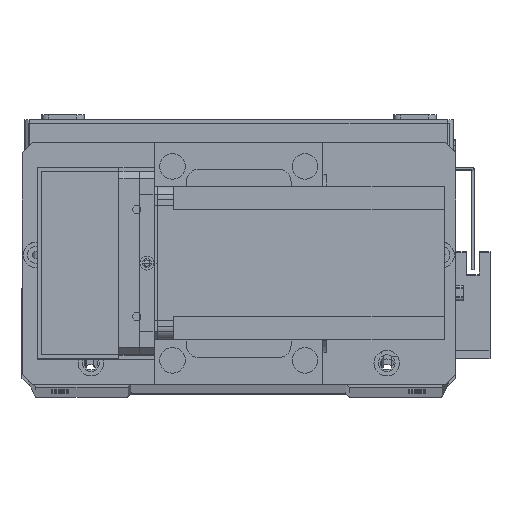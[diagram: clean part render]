
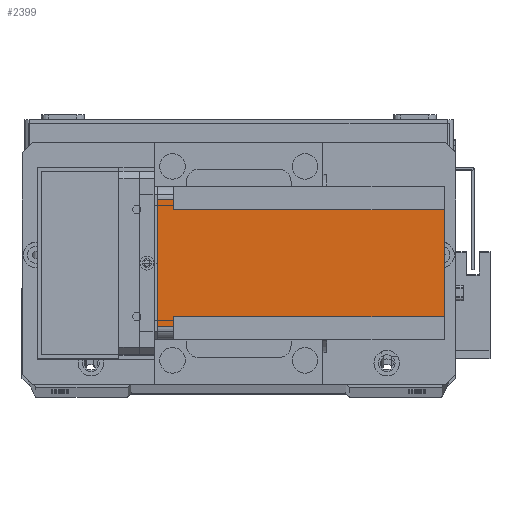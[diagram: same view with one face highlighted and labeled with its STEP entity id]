
A CAD part, top view. The second image highlights one B-rep face of the part: STEP entity #2399.
In plain terms, the highlighted planar face has unit normal (0, 0, 1) as drawn and (-1, 0, 0) by its records, which use the part's own axes.
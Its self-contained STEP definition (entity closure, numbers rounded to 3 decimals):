
#647 = EDGE_CURVE ( 'NONE', #8628, #4630, #11522, .T. ) ;
#913 = CARTESIAN_POINT ( 'NONE',  ( 0., 0., -6.5 ) ) ;
#1085 = ORIENTED_EDGE ( 'NONE', *, *, #647, .T. ) ;
#1522 = VECTOR ( 'NONE', #14975, 1000. ) ;
#1585 = EDGE_CURVE ( 'NONE', #9055, #11306, #19076, .T. ) ;
#1689 = VERTEX_POINT ( 'NONE', #11699 ) ;
#1870 = VECTOR ( 'NONE', #12699, 1000. ) ;
#2399 = ADVANCED_FACE ( 'NONE', ( #21428 ), #14424, .T. ) ;
#2958 = CARTESIAN_POINT ( 'NONE',  ( 0., 9., -112.5 ) ) ;
#3849 = CARTESIAN_POINT ( 'NONE',  ( 0., 9., -6.5 ) ) ;
#3943 = LINE ( 'NONE', #15083, #1522 ) ;
#4092 = VERTEX_POINT ( 'NONE', #27225 ) ;
#4630 = VERTEX_POINT ( 'NONE', #18871 ) ;
#6091 = ORIENTED_EDGE ( 'NONE', *, *, #32957, .F. ) ;
#6653 = VECTOR ( 'NONE', #14276, 1000. ) ;
#8628 = VERTEX_POINT ( 'NONE', #18282 ) ;
#8891 = VECTOR ( 'NONE', #27003, 1000. ) ;
#9055 = VERTEX_POINT ( 'NONE', #9745 ) ;
#9274 = CARTESIAN_POINT ( 'NONE',  ( 0., 55., -112.5 ) ) ;
#9745 = CARTESIAN_POINT ( 'NONE',  ( 0., 5., -6.5 ) ) ;
#10630 = DIRECTION ( 'NONE',  ( 0., 1., 0. ) ) ;
#11306 = VERTEX_POINT ( 'NONE', #3849 ) ;
#11522 = LINE ( 'NONE', #32069, #31995 ) ;
#11699 = CARTESIAN_POINT ( 'NONE',  ( 0., 55., -6.5 ) ) ;
#12141 = LINE ( 'NONE', #2958, #24193 ) ;
#12244 = VECTOR ( 'NONE', #13796, 1000. ) ;
#12593 = EDGE_CURVE ( 'NONE', #14582, #1689, #13455, .T. ) ;
#12699 = DIRECTION ( 'NONE',  ( 0., 0., 1. ) ) ;
#13455 = LINE ( 'NONE', #9274, #6653 ) ;
#13796 = DIRECTION ( 'NONE',  ( 0., 1., 0. ) ) ;
#14276 = DIRECTION ( 'NONE',  ( 0., 0., -1. ) ) ;
#14424 = PLANE ( 'NONE',  #21000 ) ;
#14437 = CARTESIAN_POINT ( 'NONE',  ( 0., 5., 0. ) ) ;
#14533 = DIRECTION ( 'NONE',  ( 0., -1., 0. ) ) ;
#14582 = VERTEX_POINT ( 'NONE', #28749 ) ;
#14842 = ORIENTED_EDGE ( 'NONE', *, *, #12593, .T. ) ;
#14975 = DIRECTION ( 'NONE',  ( 0., -1., 0. ) ) ;
#15083 = CARTESIAN_POINT ( 'NONE',  ( 0., 0., 0. ) ) ;
#15407 = EDGE_CURVE ( 'NONE', #8628, #4092, #30153, .T. ) ;
#15479 = LINE ( 'NONE', #33265, #1870 ) ;
#18282 = CARTESIAN_POINT ( 'NONE',  ( 0., 51., -112.5 ) ) ;
#18309 = DIRECTION ( 'NONE',  ( 0., 0., -1. ) ) ;
#18871 = CARTESIAN_POINT ( 'NONE',  ( 0., 9., -112.5 ) ) ;
#19076 = LINE ( 'NONE', #913, #12244 ) ;
#19609 = VERTEX_POINT ( 'NONE', #14437 ) ;
#19912 = EDGE_CURVE ( 'NONE', #4092, #1689, #21704, .T. ) ;
#20842 = ORIENTED_EDGE ( 'NONE', *, *, #25701, .T. ) ;
#20949 = CARTESIAN_POINT ( 'NONE',  ( 0., 60., -6.5 ) ) ;
#21000 = AXIS2_PLACEMENT_3D ( 'NONE', #22185, #29930, #14533 ) ;
#21428 = FACE_OUTER_BOUND ( 'NONE', #32804, .T. ) ;
#21704 = LINE ( 'NONE', #20949, #27750 ) ;
#22185 = CARTESIAN_POINT ( 'NONE',  ( 0., 0., -112.5 ) ) ;
#24193 = VECTOR ( 'NONE', #18309, 1000. ) ;
#24421 = CARTESIAN_POINT ( 'NONE',  ( 0., 51., -112.5 ) ) ;
#24921 = EDGE_CURVE ( 'NONE', #14582, #19609, #3943, .T. ) ;
#25595 = ORIENTED_EDGE ( 'NONE', *, *, #19912, .F. ) ;
#25701 = EDGE_CURVE ( 'NONE', #9055, #19609, #15479, .T. ) ;
#26561 = ORIENTED_EDGE ( 'NONE', *, *, #1585, .F. ) ;
#27003 = DIRECTION ( 'NONE',  ( 0., 0., 1. ) ) ;
#27225 = CARTESIAN_POINT ( 'NONE',  ( 0., 51., -6.5 ) ) ;
#27750 = VECTOR ( 'NONE', #10630, 1000. ) ;
#28749 = CARTESIAN_POINT ( 'NONE',  ( 0., 55., 0. ) ) ;
#29386 = DIRECTION ( 'NONE',  ( 0., -1., 0. ) ) ;
#29492 = ORIENTED_EDGE ( 'NONE', *, *, #24921, .F. ) ;
#29930 = DIRECTION ( 'NONE',  ( -1., 0., 0. ) ) ;
#30153 = LINE ( 'NONE', #24421, #8891 ) ;
#31995 = VECTOR ( 'NONE', #29386, 1000. ) ;
#32048 = ORIENTED_EDGE ( 'NONE', *, *, #15407, .F. ) ;
#32069 = CARTESIAN_POINT ( 'NONE',  ( 0., 0., -112.5 ) ) ;
#32804 = EDGE_LOOP ( 'NONE', ( #26561, #20842, #29492, #14842, #25595, #32048, #1085, #6091 ) ) ;
#32957 = EDGE_CURVE ( 'NONE', #11306, #4630, #12141, .T. ) ;
#33265 = CARTESIAN_POINT ( 'NONE',  ( 0., 5., -112.5 ) ) ;
